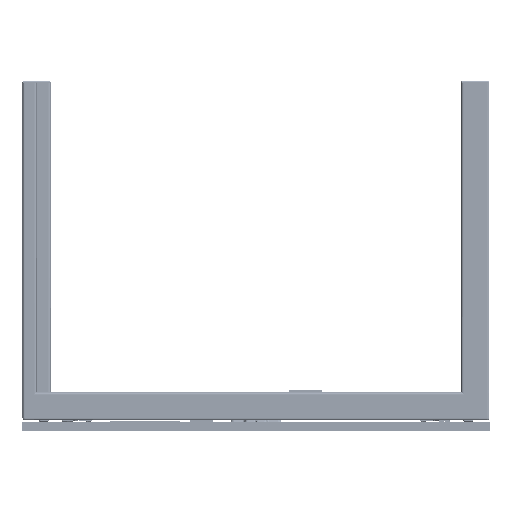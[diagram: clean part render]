
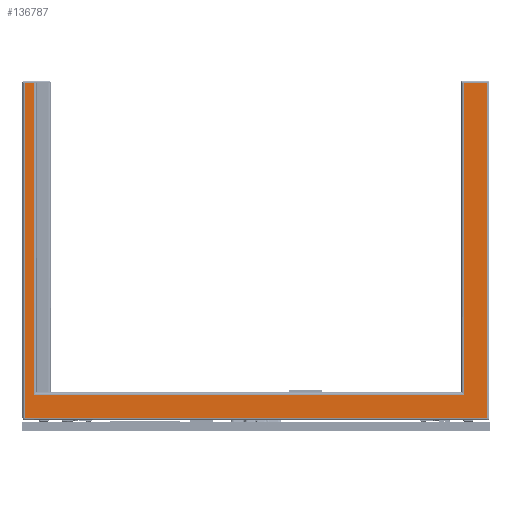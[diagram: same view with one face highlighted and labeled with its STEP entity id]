
A CAD part, front view. The second image highlights one B-rep face of the part: STEP entity #136787.
In plain terms, the highlighted planar face has unit normal (0, -1, 0) as drawn and (-1, 0, 0) by its records, which use the part's own axes.
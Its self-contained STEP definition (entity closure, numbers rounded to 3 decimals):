
#3921 = EDGE_CURVE ( 'NONE', #57942, #43646, #92456, .T. ) ;
#4010 = CARTESIAN_POINT ( 'NONE',  ( -20., -686., 491. ) ) ;
#14000 = VERTEX_POINT ( 'NONE', #103524 ) ;
#15065 = ORIENTED_EDGE ( 'NONE', *, *, #101957, .F. ) ;
#15708 = ORIENTED_EDGE ( 'NONE', *, *, #43785, .T. ) ;
#17658 = CARTESIAN_POINT ( 'NONE',  ( -20., 25., 466. ) ) ;
#18381 = CARTESIAN_POINT ( 'NONE',  ( -20., 25., 491. ) ) ;
#19733 = DIRECTION ( 'NONE',  ( 0., 1., 0. ) ) ;
#27576 = CARTESIAN_POINT ( 'NONE',  ( -20., 25., 466. ) ) ;
#30099 = LINE ( 'NONE', #27576, #86364 ) ;
#30971 = EDGE_CURVE ( 'NONE', #42742, #14000, #32023, .T. ) ;
#31313 = VECTOR ( 'NONE', #43111, 1000. ) ;
#31409 = VECTOR ( 'NONE', #132155, 1000. ) ;
#32023 = LINE ( 'NONE', #85278, #40758 ) ;
#33442 = LINE ( 'NONE', #62179, #152277 ) ;
#40758 = VECTOR ( 'NONE', #58249, 1000. ) ;
#41929 = VECTOR ( 'NONE', #147152, 1000. ) ;
#42742 = VERTEX_POINT ( 'NONE', #155227 ) ;
#43111 = DIRECTION ( 'NONE',  ( 0., 0., -1. ) ) ;
#43646 = VERTEX_POINT ( 'NONE', #63329 ) ;
#43785 = EDGE_CURVE ( 'NONE', #45843, #139116, #84364, .T. ) ;
#43823 = VERTEX_POINT ( 'NONE', #18381 ) ;
#43930 = LINE ( 'NONE', #17658, #31313 ) ;
#44601 = EDGE_CURVE ( 'NONE', #55061, #78718, #80428, .T. ) ;
#45843 = VERTEX_POINT ( 'NONE', #68306 ) ;
#48348 = AXIS2_PLACEMENT_3D ( 'NONE', #161936, #69632, #94979 ) ;
#50409 = DIRECTION ( 'NONE',  ( 0., 1., 0. ) ) ;
#54365 = CARTESIAN_POINT ( 'NONE',  ( -20., -686., -441. ) ) ;
#55061 = VERTEX_POINT ( 'NONE', #131977 ) ;
#56592 = VECTOR ( 'NONE', #123815, 1000. ) ;
#57942 = VERTEX_POINT ( 'NONE', #129678 ) ;
#58249 = DIRECTION ( 'NONE',  ( 0., -1., 0. ) ) ;
#59579 = EDGE_CURVE ( 'NONE', #43823, #117934, #43930, .T. ) ;
#62005 = CARTESIAN_POINT ( 'NONE',  ( -20., -686., 491. ) ) ;
#62179 = CARTESIAN_POINT ( 'NONE',  ( -20., -686., 471. ) ) ;
#63329 = CARTESIAN_POINT ( 'NONE',  ( -20., -686., -441. ) ) ;
#65654 = EDGE_CURVE ( 'NONE', #117934, #42742, #30099, .T. ) ;
#68306 = CARTESIAN_POINT ( 'NONE',  ( -20., -686., 471. ) ) ;
#69443 = CARTESIAN_POINT ( 'NONE',  ( -20., -25., 466. ) ) ;
#69632 = DIRECTION ( 'NONE',  ( 1., 0., 0. ) ) ;
#70090 = VECTOR ( 'NONE', #19733, 1000. ) ;
#72087 = PLANE ( 'NONE',  #48348 ) ;
#72149 = LINE ( 'NONE', #166773, #56592 ) ;
#74328 = ORIENTED_EDGE ( 'NONE', *, *, #78662, .T. ) ;
#76367 = CARTESIAN_POINT ( 'NONE',  ( -20., -25., -441. ) ) ;
#78662 = EDGE_CURVE ( 'NONE', #43646, #78718, #98431, .T. ) ;
#78718 = VERTEX_POINT ( 'NONE', #76367 ) ;
#80428 = LINE ( 'NONE', #69443, #31409 ) ;
#83735 = EDGE_CURVE ( 'NONE', #45843, #55061, #33442, .T. ) ;
#84364 = LINE ( 'NONE', #4010, #41929 ) ;
#85053 = DIRECTION ( 'NONE',  ( 0., 1., 0. ) ) ;
#85278 = CARTESIAN_POINT ( 'NONE',  ( -20., 25., -491. ) ) ;
#85821 = ORIENTED_EDGE ( 'NONE', *, *, #3921, .T. ) ;
#86364 = VECTOR ( 'NONE', #158897, 1000. ) ;
#92456 = LINE ( 'NONE', #54365, #118951 ) ;
#94979 = DIRECTION ( 'NONE',  ( 0., 1., 0. ) ) ;
#98431 = LINE ( 'NONE', #135788, #70090 ) ;
#101957 = EDGE_CURVE ( 'NONE', #57942, #14000, #127494, .T. ) ;
#103524 = CARTESIAN_POINT ( 'NONE',  ( -20., -25., -491. ) ) ;
#105577 = CARTESIAN_POINT ( 'NONE',  ( -20., 25., 471. ) ) ;
#105996 = DIRECTION ( 'NONE',  ( 0., 0., 1. ) ) ;
#112725 = ORIENTED_EDGE ( 'NONE', *, *, #59579, .T. ) ;
#117934 = VERTEX_POINT ( 'NONE', #105577 ) ;
#118794 = ORIENTED_EDGE ( 'NONE', *, *, #65654, .T. ) ;
#118951 = VECTOR ( 'NONE', #105996, 1000. ) ;
#123815 = DIRECTION ( 'NONE',  ( 0., 1., 0. ) ) ;
#127054 = ORIENTED_EDGE ( 'NONE', *, *, #44601, .F. ) ;
#127494 = LINE ( 'NONE', #140234, #146065 ) ;
#128941 = FACE_OUTER_BOUND ( 'NONE', #132606, .T. ) ;
#128992 = ORIENTED_EDGE ( 'NONE', *, *, #165109, .T. ) ;
#129678 = CARTESIAN_POINT ( 'NONE',  ( -20., -686., -491. ) ) ;
#131977 = CARTESIAN_POINT ( 'NONE',  ( -20., -25., 471. ) ) ;
#132155 = DIRECTION ( 'NONE',  ( 0., 0., -1. ) ) ;
#132606 = EDGE_LOOP ( 'NONE', ( #128992, #112725, #118794, #165510, #15065, #85821, #74328, #127054, #164226, #15708 ) ) ;
#135788 = CARTESIAN_POINT ( 'NONE',  ( -20., -758.111, -441. ) ) ;
#136787 = ADVANCED_FACE ( 'NONE', ( #128941 ), #72087, .F. ) ;
#139116 = VERTEX_POINT ( 'NONE', #62005 ) ;
#140234 = CARTESIAN_POINT ( 'NONE',  ( -20., -758.111, -491. ) ) ;
#146065 = VECTOR ( 'NONE', #50409, 1000. ) ;
#147152 = DIRECTION ( 'NONE',  ( 0., 0., 1. ) ) ;
#152277 = VECTOR ( 'NONE', #85053, 1000. ) ;
#155227 = CARTESIAN_POINT ( 'NONE',  ( -20., 25., -491. ) ) ;
#158897 = DIRECTION ( 'NONE',  ( 0., 0., -1. ) ) ;
#161936 = CARTESIAN_POINT ( 'NONE',  ( -20., 25., 466. ) ) ;
#164226 = ORIENTED_EDGE ( 'NONE', *, *, #83735, .F. ) ;
#165109 = EDGE_CURVE ( 'NONE', #139116, #43823, #72149, .T. ) ;
#165510 = ORIENTED_EDGE ( 'NONE', *, *, #30971, .T. ) ;
#166773 = CARTESIAN_POINT ( 'NONE',  ( -20., -686., 491. ) ) ;
